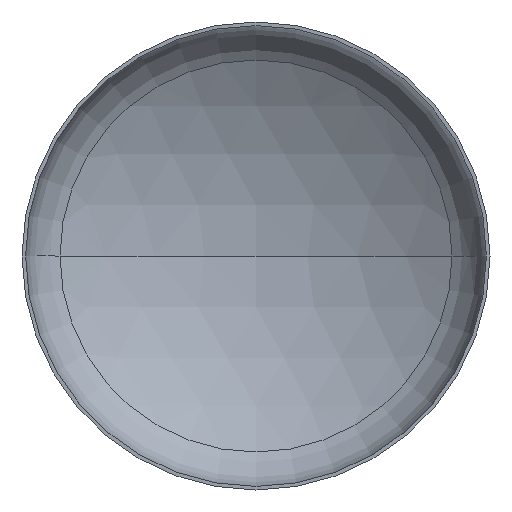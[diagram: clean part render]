
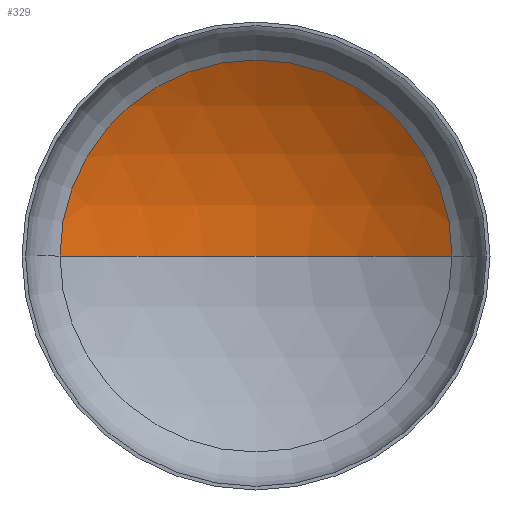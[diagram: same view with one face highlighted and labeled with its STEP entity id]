
A CAD part, front view. The second image highlights one B-rep face of the part: STEP entity #329.
In plain terms, the highlighted spherical face has radius 5600 mm.
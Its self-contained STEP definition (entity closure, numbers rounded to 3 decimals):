
#2 = AXIS2_PLACEMENT_3D ( 'NONE', #355, #175, #107 ) ;
#27 = AXIS2_PLACEMENT_3D ( 'NONE', #255, #137, #83 ) ;
#29 = AXIS2_PLACEMENT_3D ( 'NONE', #257, #79, #371 ) ;
#31 = AXIS2_PLACEMENT_3D ( 'NONE', #150, #157, #128 ) ;
#76 = EDGE_CURVE ( 'NONE', #126, #395, #218, .T. ) ;
#78 = EDGE_CURVE ( 'NONE', #364, #126, #291, .T. ) ;
#79 = DIRECTION ( 'NONE',  ( 0., 0., -1. ) ) ;
#80 = EDGE_CURVE ( 'NONE', #364, #395, #358, .T. ) ;
#83 = DIRECTION ( 'NONE',  ( 1., 0., 0. ) ) ;
#107 = DIRECTION ( 'NONE',  ( -1., 0., 0. ) ) ;
#126 = VERTEX_POINT ( 'NONE', #216 ) ;
#128 = DIRECTION ( 'NONE',  ( 1., 0., 0. ) ) ;
#136 = ORIENTED_EDGE ( 'NONE', *, *, #76, .T. ) ;
#137 = DIRECTION ( 'NONE',  ( 0., 0., 1. ) ) ;
#150 = CARTESIAN_POINT ( 'NONE',  ( 0., 1040.22, 0. ) ) ;
#157 = DIRECTION ( 'NONE',  ( 0., -1., 0. ) ) ;
#175 = DIRECTION ( 'NONE',  ( 0., 0., -1. ) ) ;
#209 = CARTESIAN_POINT ( 'NONE',  ( -2931.327, 1040.22, 0. ) ) ;
#216 = CARTESIAN_POINT ( 'NONE',  ( 2931.327, 1040.22, 0. ) ) ;
#218 = CIRCLE ( 'NONE', #31, 2931.327 ) ;
#244 = ORIENTED_EDGE ( 'NONE', *, *, #80, .F. ) ;
#249 = SPHERICAL_SURFACE ( 'NONE', #2, 5600. ) ;
#250 = ORIENTED_EDGE ( 'NONE', *, *, #78, .T. ) ;
#255 = CARTESIAN_POINT ( 'NONE',  ( 0., -3731.291, 0. ) ) ;
#257 = CARTESIAN_POINT ( 'NONE',  ( 0., -3731.291, 0. ) ) ;
#273 = EDGE_LOOP ( 'NONE', ( #244, #250, #136 ) ) ;
#291 = CIRCLE ( 'NONE', #29, 5600. ) ;
#324 = FACE_OUTER_BOUND ( 'NONE', #273, .T. ) ;
#329 = ADVANCED_FACE ( 'NONE', ( #324 ), #249, .F. ) ;
#355 = CARTESIAN_POINT ( 'NONE',  ( 0., -3731.291, 0. ) ) ;
#358 = CIRCLE ( 'NONE', #27, 5600. ) ;
#364 = VERTEX_POINT ( 'NONE', #385 ) ;
#371 = DIRECTION ( 'NONE',  ( -1., 0., 0. ) ) ;
#385 = CARTESIAN_POINT ( 'NONE',  ( 0., 1868.709, 0. ) ) ;
#395 = VERTEX_POINT ( 'NONE', #209 ) ;
